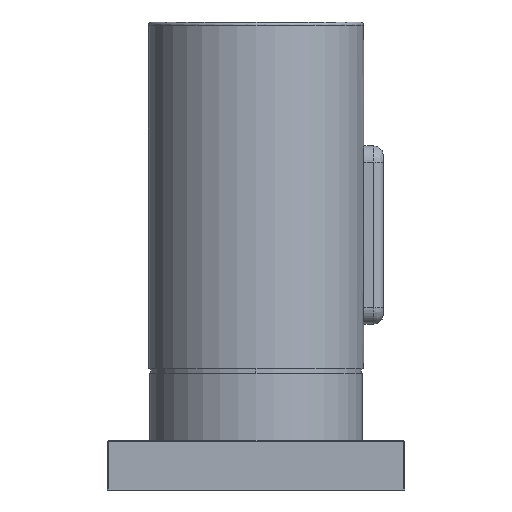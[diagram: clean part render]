
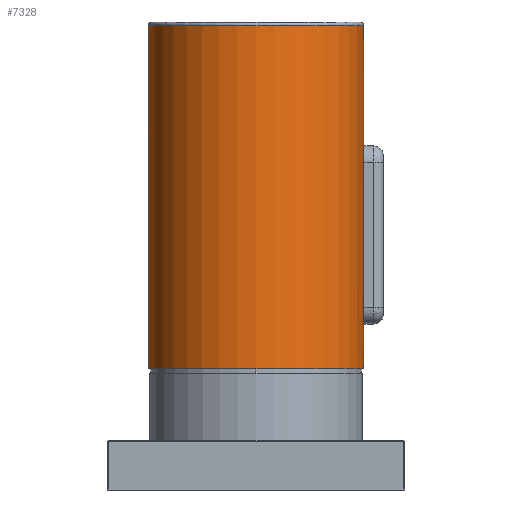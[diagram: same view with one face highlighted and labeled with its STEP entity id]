
A CAD part, left-side view. The second image highlights one B-rep face of the part: STEP entity #7328.
In plain terms, the highlighted cylindrical face has radius 21.75 mm (diameter 43.5 mm), a partial arc.
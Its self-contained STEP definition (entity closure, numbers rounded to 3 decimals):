
#7188=CARTESIAN_POINT('',(-90.0,-21.75,73.5));
#7189=VERTEX_POINT('',#7188);
#7190=CARTESIAN_POINT('',(-90.0,21.75,73.5));
#7191=VERTEX_POINT('',#7190);
#7199=CARTESIAN_POINT('',(-90.0,0.,73.5));
#7200=DIRECTION('',(0.0,0.0,1.0));
#7201=DIRECTION('',(0.0,1.0,0.0));
#7202=AXIS2_PLACEMENT_3D('',#7199,#7200,#7201);
#7203=CIRCLE('',#7202,21.75);
#7204=EDGE_CURVE('',#7191,#7189,#7203,.T.);
#7229=CARTESIAN_POINT('',(-90.0,0.,73.5));
#7230=DIRECTION('',(0.0,0.0,1.0));
#7231=DIRECTION('',(1.0,0.0,0.0));
#7232=AXIS2_PLACEMENT_3D('',#7229,#7230,#7231);
#7233=CYLINDRICAL_SURFACE('',#7232,21.75);
#7234=CARTESIAN_POINT('',(-90.0,-21.75,117.6));
#7235=VERTEX_POINT('',#7234);
#7236=CARTESIAN_POINT('',(-90.0,-21.75,142.75));
#7237=VERTEX_POINT('',#7236);
#7238=CARTESIAN_POINT('',(-90.0,-21.75,117.6));
#7239=DIRECTION('',(0.0,0.0,1.0));
#7240=VECTOR('',#7239,25.15);
#7241=LINE('',#7238,#7240);
#7242=EDGE_CURVE('',#7235,#7237,#7241,.T.);
#7243=ORIENTED_EDGE('',*,*,#7242,.T.);
#7244=CARTESIAN_POINT('',(-90.0,21.75,142.75));
#7245=VERTEX_POINT('',#7244);
#7246=CARTESIAN_POINT('',(-90.0,0.,142.75));
#7247=DIRECTION('',(0.0,0.0,1.0));
#7248=DIRECTION('',(0.0,1.0,0.0));
#7249=AXIS2_PLACEMENT_3D('',#7246,#7247,#7248);
#7250=CIRCLE('',#7249,21.75);
#7251=EDGE_CURVE('',#7245,#7237,#7250,.T.);
#7252=ORIENTED_EDGE('',*,*,#7251,.F.);
#7253=CARTESIAN_POINT('',(-90.0,21.75,73.5));
#7254=DIRECTION('',(0.0,0.0,1.0));
#7255=VECTOR('',#7254,69.25);
#7256=LINE('',#7253,#7255);
#7257=EDGE_CURVE('',#7191,#7245,#7256,.T.);
#7258=ORIENTED_EDGE('',*,*,#7257,.F.);
#7259=ORIENTED_EDGE('',*,*,#7204,.T.);
#7260=CARTESIAN_POINT('',(-90.0,-21.75,83.4));
#7261=VERTEX_POINT('',#7260);
#7262=CARTESIAN_POINT('',(-90.0,-21.75,73.5));
#7263=DIRECTION('',(0.0,0.0,1.0));
#7264=VECTOR('',#7263,9.9);
#7265=LINE('',#7262,#7264);
#7266=EDGE_CURVE('',#7189,#7261,#7265,.T.);
#7267=ORIENTED_EDGE('',*,*,#7266,.T.);
#7268=CARTESIAN_POINT('',(-92.1,-21.648,85.5));
#7269=VERTEX_POINT('',#7268);
#7270=CARTESIAN_POINT('',(-90.0,-21.75,83.4));
#7271=CARTESIAN_POINT('',(-90.061,-21.75,83.4));
#7272=CARTESIAN_POINT('',(-90.183,-21.749,83.405));
#7273=CARTESIAN_POINT('',(-90.365,-21.747,83.429));
#7274=CARTESIAN_POINT('',(-90.543,-21.743,83.469));
#7275=CARTESIAN_POINT('',(-90.718,-21.738,83.524));
#7276=CARTESIAN_POINT('',(-90.888,-21.732,83.594));
#7277=CARTESIAN_POINT('',(-91.051,-21.725,83.679));
#7278=CARTESIAN_POINT('',(-91.205,-21.717,83.777));
#7279=CARTESIAN_POINT('',(-91.351,-21.708,83.889));
#7280=CARTESIAN_POINT('',(-91.487,-21.699,84.013));
#7281=CARTESIAN_POINT('',(-91.611,-21.69,84.149));
#7282=CARTESIAN_POINT('',(-91.723,-21.682,84.295));
#7283=CARTESIAN_POINT('',(-91.821,-21.674,84.449));
#7284=CARTESIAN_POINT('',(-91.906,-21.666,84.613));
#7285=CARTESIAN_POINT('',(-91.976,-21.66,84.782));
#7286=CARTESIAN_POINT('',(-92.031,-21.655,84.957));
#7287=CARTESIAN_POINT('',(-92.071,-21.651,85.135));
#7288=CARTESIAN_POINT('',(-92.095,-21.649,85.317));
#7289=CARTESIAN_POINT('',(-92.1,-21.648,85.439));
#7290=CARTESIAN_POINT('',(-92.1,-21.648,85.5));
#7291=B_SPLINE_CURVE_WITH_KNOTS('',3,(#7270,#7271,#7272,#7273,#7274,#7275,#7276,#7277,#7278,#7279,#7280,#7281,#7282,#7283,#7284,#7285,#7286,#7287,#7288,#7289,#7290),.UNSPECIFIED.,.F.,.U.,(4,1,1,1,1,1,1,1,1,1,1,1,1,1,1,1,1,1,4),(0.0,0.056,0.111,0.167,0.222,0.278,0.333,0.389,0.444,0.5,0.556,0.611,0.667,0.722,0.778,0.833,0.889,0.944,1.0),.UNSPECIFIED.);
#7292=EDGE_CURVE('',#7261,#7269,#7291,.T.);
#7293=ORIENTED_EDGE('',*,*,#7292,.T.);
#7294=CARTESIAN_POINT('',(-92.1,-21.648,115.5));
#7295=VERTEX_POINT('',#7294);
#7296=CARTESIAN_POINT('',(-92.1,-21.648,115.5));
#7297=DIRECTION('',(0.0,0.0,-1.0));
#7298=VECTOR('',#7297,30.0);
#7299=LINE('',#7296,#7298);
#7300=EDGE_CURVE('',#7295,#7269,#7299,.T.);
#7301=ORIENTED_EDGE('',*,*,#7300,.F.);
#7302=CARTESIAN_POINT('',(-92.1,-21.648,115.5));
#7303=CARTESIAN_POINT('',(-92.1,-21.648,115.561));
#7304=CARTESIAN_POINT('',(-92.095,-21.649,115.683));
#7305=CARTESIAN_POINT('',(-92.071,-21.651,115.865));
#7306=CARTESIAN_POINT('',(-92.031,-21.655,116.043));
#7307=CARTESIAN_POINT('',(-91.976,-21.66,116.218));
#7308=CARTESIAN_POINT('',(-91.906,-21.666,116.387));
#7309=CARTESIAN_POINT('',(-91.821,-21.674,116.551));
#7310=CARTESIAN_POINT('',(-91.723,-21.682,116.705));
#7311=CARTESIAN_POINT('',(-91.611,-21.69,116.851));
#7312=CARTESIAN_POINT('',(-91.487,-21.699,116.987));
#7313=CARTESIAN_POINT('',(-91.351,-21.708,117.111));
#7314=CARTESIAN_POINT('',(-91.205,-21.717,117.223));
#7315=CARTESIAN_POINT('',(-91.051,-21.725,117.321));
#7316=CARTESIAN_POINT('',(-90.888,-21.732,117.406));
#7317=CARTESIAN_POINT('',(-90.718,-21.738,117.476));
#7318=CARTESIAN_POINT('',(-90.543,-21.743,117.531));
#7319=CARTESIAN_POINT('',(-90.365,-21.747,117.571));
#7320=CARTESIAN_POINT('',(-90.183,-21.749,117.595));
#7321=CARTESIAN_POINT('',(-90.061,-21.75,117.6));
#7322=CARTESIAN_POINT('',(-90.0,-21.75,117.6));
#7323=B_SPLINE_CURVE_WITH_KNOTS('',3,(#7302,#7303,#7304,#7305,#7306,#7307,#7308,#7309,#7310,#7311,#7312,#7313,#7314,#7315,#7316,#7317,#7318,#7319,#7320,#7321,#7322),.UNSPECIFIED.,.F.,.U.,(4,1,1,1,1,1,1,1,1,1,1,1,1,1,1,1,1,1,4),(0.0,0.056,0.111,0.167,0.222,0.278,0.333,0.389,0.444,0.5,0.556,0.611,0.667,0.722,0.778,0.833,0.889,0.944,1.0),.UNSPECIFIED.);
#7324=EDGE_CURVE('',#7295,#7235,#7323,.T.);
#7325=ORIENTED_EDGE('',*,*,#7324,.T.);
#7326=EDGE_LOOP('',(#7243,#7252,#7258,#7259,#7267,#7293,#7301,#7325));
#7327=FACE_OUTER_BOUND('',#7326,.T.);
#7328=ADVANCED_FACE('',(#7327),#7233,.T.);
